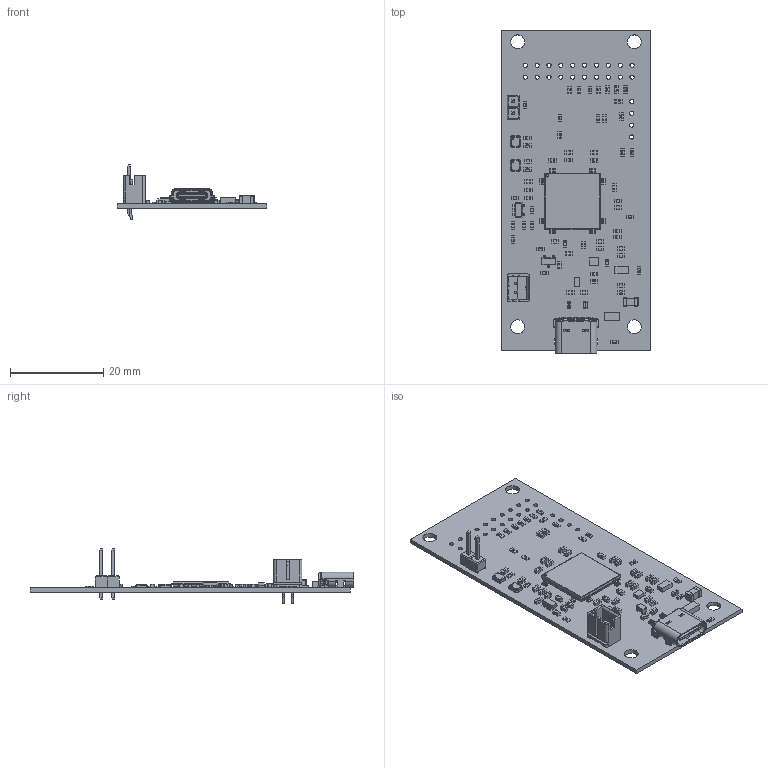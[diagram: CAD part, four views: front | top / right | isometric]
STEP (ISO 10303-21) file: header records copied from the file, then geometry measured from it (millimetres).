
FILE_DESCRIPTION(('Open CASCADE Model'),'2;1');
FILE_NAME('Open CASCADE Shape Model','2024-06-24T15:47:02',('Author'),( 'Open CASCADE'),'Open CASCADE STEP processor 6.8','Open CASCADE 6.8' ,'Unknown');
FILE_SCHEMA(('AUTOMOTIVE_DESIGN { 1 0 10303 214 1 1 1 1 }'));
Length unit declared in the file: millimetre
Products named in the file (122): PCB; Board; Open CASCADE STEP translator 6.8 1.1.1; J2; 5968303168; R3; 0603_res; R2; V2; CAP_VJ0603_VIS; V1; FB1; User_Library-EMI_Filter_DLW21S; U1; 6037688688; Extruded; Y2; 5954472464; Body; Pins; U8; User_Library-SM2520-4_(1); 6012400768; Cylinder; U7; U9; SOT-23; U5; QFP80pin_0.5_14x14; R11; Res_Panasonic_ERJ-3EKF12R0V_eec; body; pad; top; Panasonic; R10; R1; C39; C25; C37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
Assembly tree (186 placements, depth 4):
  PCB
    Board
      Open CASCADE STEP translator 6.8 1.1.1
    J2
      5968303168
    R3
      0603_res
    R2
      0603_res
    V2
      CAP_VJ0603_VIS
    V1
      CAP_VJ0603_VIS
    FB1
      User_Library-EMI_Filter_DLW21S
    U1
      6037688688
        Extruded
    Y2
      5954472464
        Body
        Pins
    U8
      User_Library-SM2520-4_(1)
      6012400768
        Cylinder
    U7
      User_Library-SM2520-4_(1)
      6012400768
        Cylinder
    U9
      SOT-23
    U5
      QFP80pin_0.5_14x14
    R11
      Res_Panasonic_ERJ-3EKF12R0V_eec
        body
        pad  x2
        top  x2
        Panasonic
    R10
      Res_Panasonic_ERJ-3EKF12R0V_eec
        body
        pad  x2
        top  x2
        Panasonic
    R1
      0603_res
    C39
      CAP_VJ0603_VIS
    C25
      CAP_VJ0603_VIS
    C37
      CAP_VJ0603_VIS
    C34
      CAP_VJ0603_VIS
    C33
      CAP_VJ0603_VIS
    C29
      CAP_VJ0603_VIS
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Bounding box: 32 x 69.26 x 11.86 mm (x, y, z)
Volume: 2500.6 mm3; surface area: 6706.5 mm2
Topology: 280 solids, 280 shells, 6742 faces, 16588 edges, 10213 vertices
Faces by surface type: plane 3437, cylinder 1402, bspline 1399, sphere 312, torus 176, cone 16
Full cylindrical faces by diameter (mm): 0.4 x2, 0.5 x2, 0.65 x2, 0.9 x28, 3 x4
Entity records: 98946 total; most frequent: CARTESIAN_POINT 21514, ORIENTED_EDGE 14902, DIRECTION 14168, EDGE_CURVE 7451, LINE 4974, VECTOR 4974, VERTEX_POINT 4759, AXIS2_PLACEMENT_3D 4597
